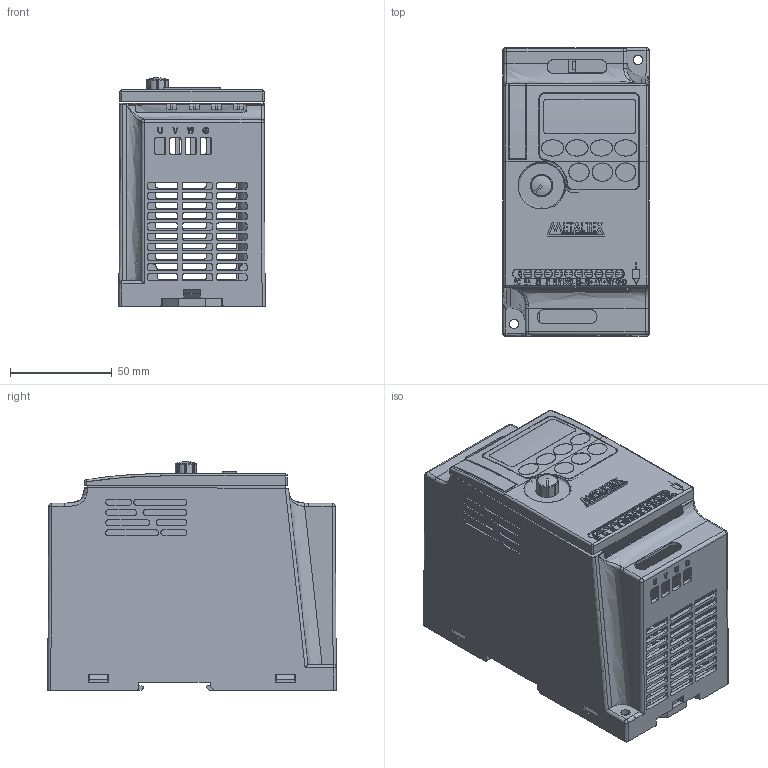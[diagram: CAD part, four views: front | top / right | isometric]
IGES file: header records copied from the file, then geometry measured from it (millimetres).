
Start section: SolidWorks IGES file using analytic representation for surfaces
Global section: file name: D:\X - Arquivos\PROEX\Empresas\P11 - METALTEX\Arquivo - Recebi por e-mail\3\3.1\IF10\IGES\2_2kw.IGS; native system: SolidWorks 2012; preprocessor: SolidWorks 2012; author: Usuario; date: 190524.101015; units: millimetre
Bounding box: 72.04 x 142.04 x 112.49 mm (x, y, z)
Surface area: 164295.9 mm2 (no closed solid volume)
Topology: 0 solids, 0 shells, 2636 faces, 22786 edges, 22782 vertices
Faces by surface type: bspline 2083, revolution 553
